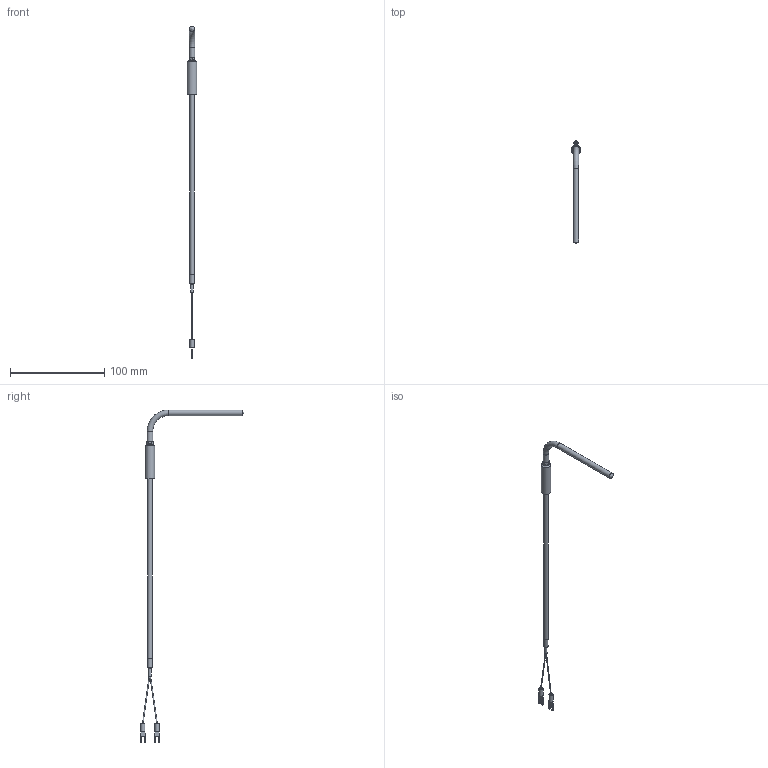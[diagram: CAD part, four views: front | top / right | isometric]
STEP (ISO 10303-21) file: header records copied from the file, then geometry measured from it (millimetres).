
FILE_DESCRIPTION (( 'STEP AP203' ), '1' );
FILE_NAME ('YIT111-5(0).STEP', '2025-03-19T02:21:02', ( '' ), ( '' ), 'SwSTEP 2.0', 'SolidWorks 2021', '' );
FILE_SCHEMA (( 'CONFIG_CONTROL_DESIGN' ));
Length unit declared in the file: millimetre
Products named in the file (1): YIT111-5(0)
Bounding box: 10 x 110.43 x 353 mm (x, y, z)
Volume: 10459.2 mm3; surface area: 7507.4 mm2
Topology: 1 solids, 1 shells, 70 faces, 168 edges, 109 vertices
Faces by surface type: plane 35, cylinder 22, bspline 8, cone 3, torus 2
Full cylindrical faces by diameter (mm): 3.16 x1, 4.5 x2, 4.8 x1, 5 x1, 6 x2, 10 x1
Entity records: 2185 total; most frequent: CARTESIAN_POINT 571, DIRECTION 312, ORIENTED_EDGE 296, EDGE_CURVE 148, AXIS2_PLACEMENT_3D 113, VERTEX_POINT 104, EDGE_LOOP 94, LINE 86
